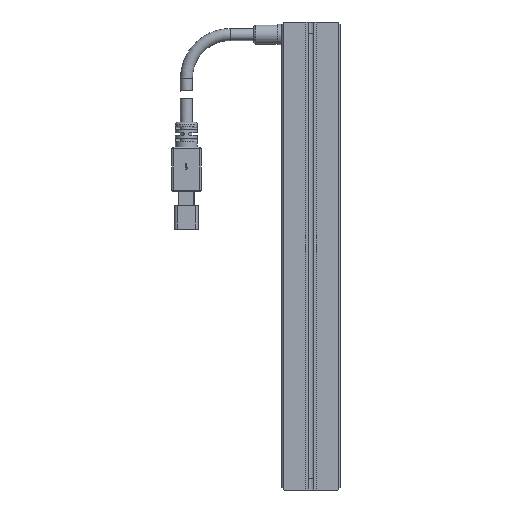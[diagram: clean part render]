
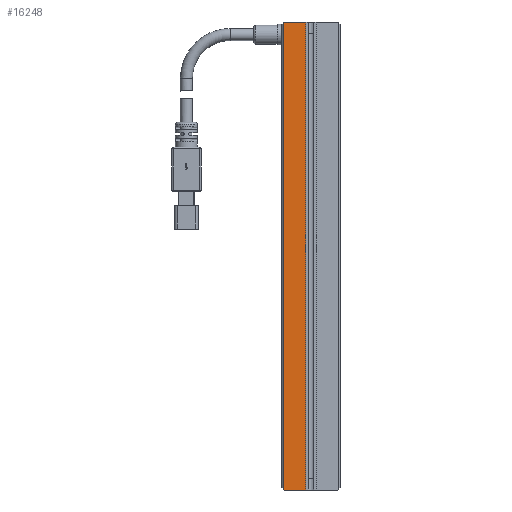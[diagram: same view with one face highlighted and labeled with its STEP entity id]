
A CAD part, front view. The second image highlights one B-rep face of the part: STEP entity #16248.
In plain terms, the highlighted planar face has unit normal (0, -1, 0).
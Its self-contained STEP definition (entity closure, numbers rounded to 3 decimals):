
#1 = CARTESIAN_POINT ( 'NONE',  ( -9., 0., -80. ) ) ;
#268 = VECTOR ( 'NONE', #5355, 1000. ) ;
#1217 = VECTOR ( 'NONE', #6460, 1000. ) ;
#2076 = DIRECTION ( 'NONE',  ( 0., -1., 0. ) ) ;
#2304 = CARTESIAN_POINT ( 'NONE',  ( -9., 0., 80. ) ) ;
#2636 = CARTESIAN_POINT ( 'NONE',  ( 0., 0., 80. ) ) ;
#2718 = EDGE_CURVE ( 'NONE', #12462, #11453, #16580, .T. ) ;
#2856 = AXIS2_PLACEMENT_3D ( 'NONE', #10381, #2076, #15902 ) ;
#3521 = PLANE ( 'NONE',  #2856 ) ;
#3857 = CARTESIAN_POINT ( 'NONE',  ( -9.5, 0., 80. ) ) ;
#3968 = ORIENTED_EDGE ( 'NONE', *, *, #15375, .T. ) ;
#4272 = DIRECTION ( 'NONE',  ( 0., 0., -1. ) ) ;
#4286 = DIRECTION ( 'NONE',  ( -1., 0., 0. ) ) ;
#5355 = DIRECTION ( 'NONE',  ( -0.707, 0., -0.707 ) ) ;
#5722 = CARTESIAN_POINT ( 'NONE',  ( -1.75, 0., 80. ) ) ;
#5862 = EDGE_CURVE ( 'NONE', #12696, #16555, #16723, .T. ) ;
#5869 = ORIENTED_EDGE ( 'NONE', *, *, #17819, .T. ) ;
#6038 = VERTEX_POINT ( 'NONE', #15368 ) ;
#6460 = DIRECTION ( 'NONE',  ( 0., 0., -1. ) ) ;
#6568 = ORIENTED_EDGE ( 'NONE', *, *, #7500, .T. ) ;
#7013 = CARTESIAN_POINT ( 'NONE',  ( -1.75, 0., -80. ) ) ;
#7500 = EDGE_CURVE ( 'NONE', #11453, #16555, #12756, .T. ) ;
#7662 = LINE ( 'NONE', #16212, #268 ) ;
#8234 = ORIENTED_EDGE ( 'NONE', *, *, #11447, .F. ) ;
#8815 = FACE_OUTER_BOUND ( 'NONE', #11332, .T. ) ;
#9497 = LINE ( 'NONE', #2636, #9709 ) ;
#9506 = CARTESIAN_POINT ( 'NONE',  ( 0., 0., -80. ) ) ;
#9690 = VERTEX_POINT ( 'NONE', #2304 ) ;
#9709 = VECTOR ( 'NONE', #4286, 1000. ) ;
#9990 = VECTOR ( 'NONE', #13769, 1000. ) ;
#10013 = LINE ( 'NONE', #5722, #12831 ) ;
#10381 = CARTESIAN_POINT ( 'NONE',  ( 0., 0., 80. ) ) ;
#10491 = ORIENTED_EDGE ( 'NONE', *, *, #2718, .T. ) ;
#11332 = EDGE_LOOP ( 'NONE', ( #3968, #5869, #10491, #6568, #12762, #8234 ) ) ;
#11447 = EDGE_CURVE ( 'NONE', #6038, #12696, #10013, .T. ) ;
#11453 = VERTEX_POINT ( 'NONE', #16637 ) ;
#12293 = DIRECTION ( 'NONE',  ( -1., 0., 0. ) ) ;
#12462 = VERTEX_POINT ( 'NONE', #13621 ) ;
#12696 = VERTEX_POINT ( 'NONE', #7013 ) ;
#12756 = LINE ( 'NONE', #17890, #9990 ) ;
#12762 = ORIENTED_EDGE ( 'NONE', *, *, #5862, .F. ) ;
#12831 = VECTOR ( 'NONE', #4272, 1000. ) ;
#13311 = VECTOR ( 'NONE', #12293, 1000. ) ;
#13621 = CARTESIAN_POINT ( 'NONE',  ( -9.5, 0., 79.5 ) ) ;
#13769 = DIRECTION ( 'NONE',  ( 0.707, 0., -0.707 ) ) ;
#15368 = CARTESIAN_POINT ( 'NONE',  ( -1.75, 0., 80. ) ) ;
#15375 = EDGE_CURVE ( 'NONE', #6038, #9690, #9497, .T. ) ;
#15902 = DIRECTION ( 'NONE',  ( 1., 0., 0. ) ) ;
#16212 = CARTESIAN_POINT ( 'NONE',  ( -4.5, 0., 84.5 ) ) ;
#16248 = ADVANCED_FACE ( 'NONE', ( #8815 ), #3521, .T. ) ;
#16555 = VERTEX_POINT ( 'NONE', #1 ) ;
#16580 = LINE ( 'NONE', #3857, #1217 ) ;
#16637 = CARTESIAN_POINT ( 'NONE',  ( -9.5, 0., -79.5 ) ) ;
#16723 = LINE ( 'NONE', #9506, #13311 ) ;
#17819 = EDGE_CURVE ( 'NONE', #9690, #12462, #7662, .T. ) ;
#17890 = CARTESIAN_POINT ( 'NONE',  ( -84.5, 0., -4.5 ) ) ;
